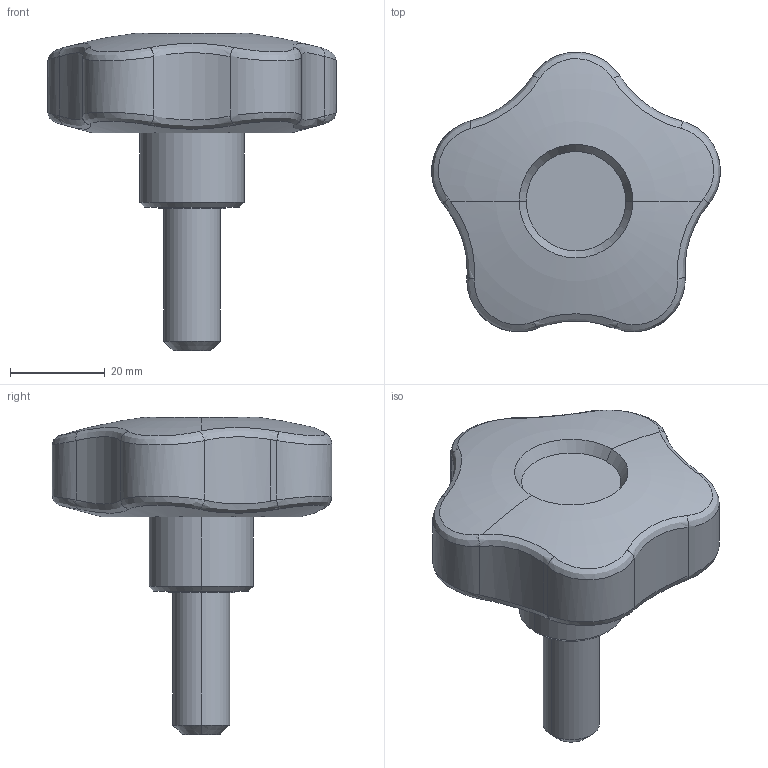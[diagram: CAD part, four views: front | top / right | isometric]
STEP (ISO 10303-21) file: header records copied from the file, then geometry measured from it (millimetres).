
FILE_DESCRIPTION (( 'STEP AP203' ), '1' );
FILE_NAME ('stk60x30n.STEP', '2021-10-25T04:36:29', ( '' ), ( '' ), 'SwSTEP 2.0', 'SolidWorks 2020', '' );
FILE_SCHEMA (( 'CONFIG_CONTROL_DESIGN' ));
Length unit declared in the file: millimetre
Products named in the file (1): stk60x30n
Bounding box: 60.99 x 59.08 x 67 mm (x, y, z)
Volume: 56648.7 mm3; surface area: 10235.9 mm2
Topology: 1 solids, 1 shells, 54 faces, 133 edges, 84 vertices
Faces by surface type: bspline 20, cylinder 19, cone 8, plane 5, torus 2
Entity records: 3710 total; most frequent: CARTESIAN_POINT 2552, ORIENTED_EDGE 266, DIRECTION 163, EDGE_CURVE 133, VERTEX_POINT 84, B_SPLINE_CURVE_WITH_KNOTS 72, AXIS2_PLACEMENT_3D 67, EDGE_LOOP 57
